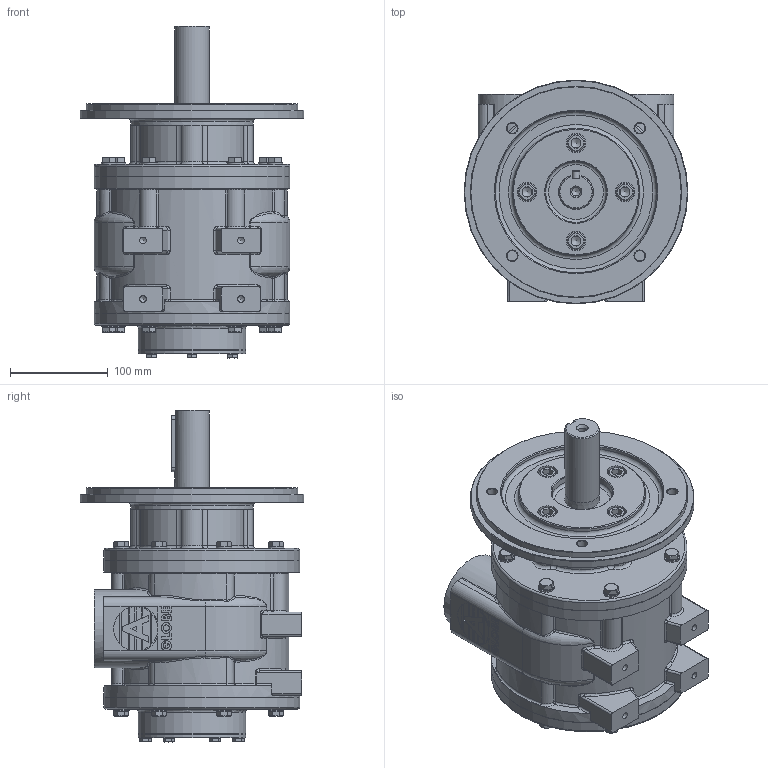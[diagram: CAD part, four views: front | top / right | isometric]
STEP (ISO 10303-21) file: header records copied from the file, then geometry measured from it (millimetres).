
FILE_DESCRIPTION (( 'STEP AP214' ), '1' );
FILE_NAME ('VA12C Defeature + Logo.STEP', '2023-05-23T11:24:33', ( '' ), ( '' ), 'SwSTEP 2.0', 'SolidWorks 2022', '' );
FILE_SCHEMA (( 'AUTOMOTIVE_DESIGN' ));
Length unit declared in the file: millimetre
Products named in the file (1): VA12C Defeature + Logo
Bounding box: 228.6 x 228.6 x 339.27 mm (x, y, z)
Volume: 6495157.5 mm3; surface area: 348789 mm2
Topology: 1 solids, 1 shells, 1068 faces, 2456 edges, 1429 vertices
Faces by surface type: plane 518, cylinder 198, cone 164, torus 79, bspline 57, sphere 52
Full cylindrical faces by diameter (mm): 6.8 x4, 8.5 x1, 10 x6, 10.716 x4, 13 x16, 16 x16, 18 x4, 20 x4, 34.925 x1, 35 x1, 35.5 x1, 56.656 x2, 62 x1, 80 x2, 109 x1, 110 x2, 125 x1, 130 x1, 165 x1, 199.5 x2, 200 x4, 215.9 x1, 228.6 x1
Entity records: 41907 total; most frequent: CARTESIAN_POINT 14376, DIRECTION 4642, ORIENTED_EDGE 4504, EDGE_CURVE 2252, AXIS2_PLACEMENT_3D 1846, VERTEX_POINT 1376, EDGE_LOOP 1268, FACE_OUTER_BOUND 1152
